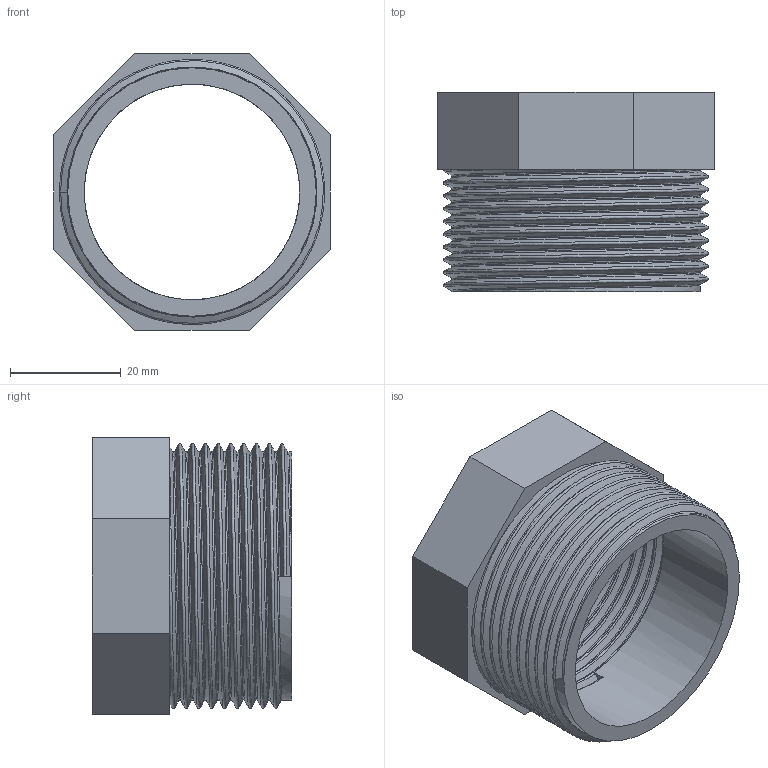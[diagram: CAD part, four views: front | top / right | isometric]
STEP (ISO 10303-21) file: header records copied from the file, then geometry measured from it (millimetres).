
FILE_DESCRIPTION(/* description */ ('PVC riduzione filettata BSP maschio-femmina'),/* implementation_level */ '2;1');
FILE_NAME(/* name */ 'C:\Users\POLYPIPE\Desktop\DATASET INVENTOR\LIBRERIA EFFAST\RACCORDI 3DxWEB\RER\3D_RERRCE\3D_RERRCE050E.stp',/* time_stamp */ '2018-01-19T16:58:23+01:00',/* author */ ('POLYPIPE'),/* organization */ ('Polypipe Italia s.r.l.'),/* preprocessor_version */ 'ST-DEVELOPER v16.1',/* originating_system */ 'Autodesk Inventor 2016',/* authorisation */ '');
FILE_SCHEMA (('CONFIG_CONTROL_DESIGN'));
Length unit declared in the file: millimetre
Products named in the file (1): 3D_RERRCE
Bounding box: 50 x 36 x 50 mm (x, y, z)
Volume: 21185.9 mm3; surface area: 15564.9 mm2
Topology: 1 solids, 1 shells, 25 faces, 62 edges, 40 vertices
Faces by surface type: plane 13, bspline 10, cylinder 2
Full cylindrical faces by diameter (mm): 38.952 x1, 44.845 x1
Entity records: 7752 total; most frequent: CARTESIAN_POINT 7205, ORIENTED_EDGE 120, DIRECTION 78, EDGE_CURVE 60, VERTEX_POINT 39, LINE 30, VECTOR 30, EDGE_LOOP 29
